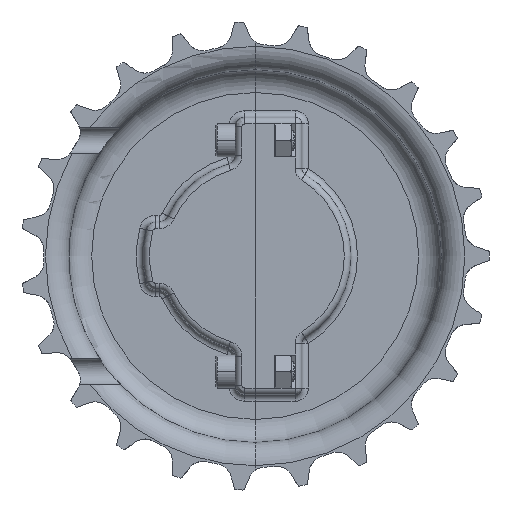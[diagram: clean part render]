
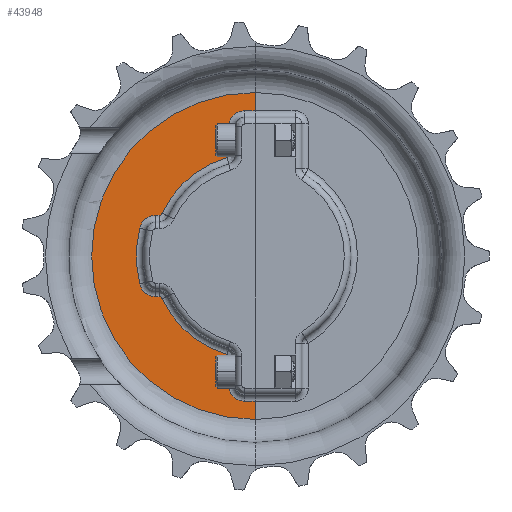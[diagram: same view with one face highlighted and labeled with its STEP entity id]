
A CAD part, left-side view. The second image highlights one B-rep face of the part: STEP entity #43948.
In plain terms, the highlighted planar face has unit normal (-1, 0, 0).
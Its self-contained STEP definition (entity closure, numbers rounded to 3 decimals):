
#15897=DIRECTION('',(0.,0.,-1.));
#15898=VECTOR('',#15897,3.2);
#15899=CARTESIAN_POINT('',(-4.15,44.,3.2));
#15900=LINE('',#15899,#15898);
#15904=DIRECTION('',(0.,1.,0.));
#15905=VECTOR('',#15904,5.535);
#15906=CARTESIAN_POINT('',(-4.15,44.,0.));
#15907=LINE('',#15906,#15905);
#15911=DIRECTION('',(0.,1.,0.));
#15912=VECTOR('',#15911,5.535);
#15913=CARTESIAN_POINT('',(-4.15,-49.535,0.));
#15914=LINE('',#15913,#15912);
#15918=DIRECTION('',(0.,0.,1.));
#15919=VECTOR('',#15918,3.2);
#15920=CARTESIAN_POINT('',(-4.15,-44.,0.));
#15921=LINE('',#15920,#15919);
#15925=CARTESIAN_POINT('',(-4.15,-39.2,3.2));
#15926=DIRECTION('',(-1.,0.,0.));
#15927=DIRECTION('',(0.,-1.,0.));
#15928=AXIS2_PLACEMENT_3D('',#15925,#15926,#15927);
#15933=DIRECTION('',(0.,1.,0.));
#15934=VECTOR('',#15933,8.642);
#15935=CARTESIAN_POINT('',(-4.15,-39.2,8.));
#15936=LINE('',#15935,#15934);
#15940=CARTESIAN_POINT('',(-4.15,-30.558,8.8));
#15941=DIRECTION('',(1.,0.,0.));
#15942=DIRECTION('',(0.,0.,-1.));
#15943=AXIS2_PLACEMENT_3D('',#15940,#15941,#15942);
#15948=CARTESIAN_POINT('',(-4.15,0.,0.));
#15949=DIRECTION('',(-1.,0.,0.));
#15950=DIRECTION('',(0.,-0.961,0.277));
#15951=AXIS2_PLACEMENT_3D('',#15948,#15949,#15950);
#15956=CARTESIAN_POINT('',(-4.15,-13.3,29.105));
#15957=DIRECTION('',(1.,0.,0.));
#15958=DIRECTION('',(0.,0.416,-0.91));
#15959=AXIS2_PLACEMENT_3D('',#15956,#15957,#15958);
#15964=DIRECTION('',(0.,0.,1.));
#15965=VECTOR('',#15964,1.023);
#15966=CARTESIAN_POINT('',(-4.15,-12.3,29.105));
#15967=LINE('',#15966,#15965);
#15971=CARTESIAN_POINT('',(-4.15,-7.3,30.128));
#15972=DIRECTION('',(-1.,0.,0.));
#15973=DIRECTION('',(0.,-1.,0.));
#15974=AXIS2_PLACEMENT_3D('',#15971,#15972,#15973);
#15979=CARTESIAN_POINT('',(-4.15,0.,0.));
#15980=DIRECTION('',(-1.,0.,0.));
#15981=DIRECTION('',(0.,-0.235,0.972));
#15982=AXIS2_PLACEMENT_3D('',#15979,#15980,#15981);
#15987=CARTESIAN_POINT('',(-4.15,7.3,30.128));
#15988=DIRECTION('',(-1.,0.,0.));
#15989=DIRECTION('',(0.,0.235,0.972));
#15990=AXIS2_PLACEMENT_3D('',#15987,#15988,#15989);
#15995=DIRECTION('',(0.,0.,-1.));
#15996=VECTOR('',#15995,1.023);
#15997=CARTESIAN_POINT('',(-4.15,12.3,30.128));
#15998=LINE('',#15997,#15996);
#16002=CARTESIAN_POINT('',(-4.15,13.3,29.105));
#16003=DIRECTION('',(1.,0.,0.));
#16004=DIRECTION('',(0.,-1.,0.));
#16005=AXIS2_PLACEMENT_3D('',#16002,#16003,#16004);
#16010=CARTESIAN_POINT('',(-4.15,0.,0.));
#16011=DIRECTION('',(-1.,0.,0.));
#16012=DIRECTION('',(0.,0.416,0.91));
#16013=AXIS2_PLACEMENT_3D('',#16010,#16011,#16012);
#16018=CARTESIAN_POINT('',(-4.15,30.558,8.8));
#16019=DIRECTION('',(1.,0.,0.));
#16020=DIRECTION('',(0.,-0.961,-0.277));
#16021=AXIS2_PLACEMENT_3D('',#16018,#16019,#16020);
#16026=DIRECTION('',(0.,1.,0.));
#16027=VECTOR('',#16026,8.642);
#16028=CARTESIAN_POINT('',(-4.15,30.558,8.));
#16029=LINE('',#16028,#16027);
#16033=CARTESIAN_POINT('',(-4.15,39.2,3.2));
#16034=DIRECTION('',(-1.,0.,0.));
#16035=DIRECTION('',(0.,0.,1.));
#16036=AXIS2_PLACEMENT_3D('',#16033,#16034,#16035);
#16115=CARTESIAN_POINT('',(-4.15,0.,0.));
#16116=DIRECTION('',(1.,0.,0.));
#16117=DIRECTION('',(0.,1.,0.));
#16118=AXIS2_PLACEMENT_3D('',#16115,#16116,#16117);
#42471=CARTESIAN_POINT('',(-4.15,49.535,0.));
#42472=CARTESIAN_POINT('',(-4.15,-49.535,0.));
#42473=VERTEX_POINT('',#42471);
#42474=VERTEX_POINT('',#42472);
#42491=CARTESIAN_POINT('',(-4.15,44.,3.2));
#42492=CARTESIAN_POINT('',(-4.15,44.,0.));
#42493=VERTEX_POINT('',#42491);
#42494=VERTEX_POINT('',#42492);
#42499=CARTESIAN_POINT('',(-4.15,39.2,8.));
#42500=VERTEX_POINT('',#42499);
#42503=CARTESIAN_POINT('',(-4.15,30.558,8.));
#42504=VERTEX_POINT('',#42503);
#42507=CARTESIAN_POINT('',(-4.15,29.789,8.579));
#42508=VERTEX_POINT('',#42507);
#42511=CARTESIAN_POINT('',(-4.15,12.884,28.196));
#42512=VERTEX_POINT('',#42511);
#42515=CARTESIAN_POINT('',(-4.15,12.3,29.105));
#42516=VERTEX_POINT('',#42515);
#42519=CARTESIAN_POINT('',(-4.15,12.3,30.128));
#42520=VERTEX_POINT('',#42519);
#42523=CARTESIAN_POINT('',(-4.15,8.477,34.988));
#42524=VERTEX_POINT('',#42523);
#42527=CARTESIAN_POINT('',(-4.15,-8.477,34.988));
#42528=VERTEX_POINT('',#42527);
#42531=CARTESIAN_POINT('',(-4.15,-12.3,30.128));
#42532=VERTEX_POINT('',#42531);
#42535=CARTESIAN_POINT('',(-4.15,-12.3,29.105));
#42536=VERTEX_POINT('',#42535);
#42539=CARTESIAN_POINT('',(-4.15,-12.884,28.196));
#42540=VERTEX_POINT('',#42539);
#42543=CARTESIAN_POINT('',(-4.15,-29.789,8.579));
#42544=VERTEX_POINT('',#42543);
#42547=CARTESIAN_POINT('',(-4.15,-30.558,8.));
#42548=VERTEX_POINT('',#42547);
#42551=CARTESIAN_POINT('',(-4.15,-39.2,8.));
#42552=VERTEX_POINT('',#42551);
#42555=CARTESIAN_POINT('',(-4.15,-44.,3.2));
#42556=VERTEX_POINT('',#42555);
#42561=CARTESIAN_POINT('',(-4.15,-44.,0.));
#42562=VERTEX_POINT('',#42561);
#43904=CARTESIAN_POINT('',(-4.15,0.,0.));
#43905=DIRECTION('',(1.,0.,0.));
#43906=DIRECTION('',(0.,1.,0.));
#43907=AXIS2_PLACEMENT_3D('',#43904,#43905,#43906);
#43908=PLANE('',#43907);
#43909=ORIENTED_EDGE('',*,*,#43895,.T.);
#43910=ORIENTED_EDGE('',*,*,#43813,.T.);
#43912=ORIENTED_EDGE('',*,*,#43911,.T.);
#43913=ORIENTED_EDGE('',*,*,#43745,.T.);
#43915=ORIENTED_EDGE('',*,*,#43914,.T.);
#43917=ORIENTED_EDGE('',*,*,#43916,.T.);
#43919=ORIENTED_EDGE('',*,*,#43918,.T.);
#43921=ORIENTED_EDGE('',*,*,#43920,.T.);
#43923=ORIENTED_EDGE('',*,*,#43922,.T.);
#43925=ORIENTED_EDGE('',*,*,#43924,.T.);
#43927=ORIENTED_EDGE('',*,*,#43926,.T.);
#43929=ORIENTED_EDGE('',*,*,#43928,.T.);
#43931=ORIENTED_EDGE('',*,*,#43930,.T.);
#43933=ORIENTED_EDGE('',*,*,#43932,.T.);
#43935=ORIENTED_EDGE('',*,*,#43934,.T.);
#43937=ORIENTED_EDGE('',*,*,#43936,.T.);
#43939=ORIENTED_EDGE('',*,*,#43938,.T.);
#43941=ORIENTED_EDGE('',*,*,#43940,.T.);
#43943=ORIENTED_EDGE('',*,*,#43942,.T.);
#43945=ORIENTED_EDGE('',*,*,#43944,.T.);
#43946=EDGE_LOOP('',(#43909,#43910,#43912,#43913,#43915,#43917,#43919,#43921,
#43923,#43925,#43927,#43929,#43931,#43933,#43935,#43937,#43939,#43941,#43943,
#43945));
#43947=FACE_OUTER_BOUND('',#43946,.F.);
#15929=CIRCLE('',#15928,4.8);
#15944=CIRCLE('',#15943,0.8);
#15952=CIRCLE('',#15951,31.);
#15960=CIRCLE('',#15959,1.);
#15975=CIRCLE('',#15974,5.);
#15983=CIRCLE('',#15982,36.);
#15991=CIRCLE('',#15990,5.);
#16006=CIRCLE('',#16005,1.);
#16014=CIRCLE('',#16013,31.);
#16022=CIRCLE('',#16021,0.8);
#16037=CIRCLE('',#16036,4.8);
#16119=CIRCLE('',#16118,49.535);
#43745=EDGE_CURVE('',#42474,#42562,#15914,.T.);
#43813=EDGE_CURVE('',#42494,#42473,#15907,.T.);
#43895=EDGE_CURVE('',#42493,#42494,#15900,.T.);
#43911=EDGE_CURVE('',#42473,#42474,#16119,.T.);
#43914=EDGE_CURVE('',#42562,#42556,#15921,.T.);
#43916=EDGE_CURVE('',#42556,#42552,#15929,.T.);
#43918=EDGE_CURVE('',#42552,#42548,#15936,.T.);
#43920=EDGE_CURVE('',#42548,#42544,#15944,.T.);
#43922=EDGE_CURVE('',#42544,#42540,#15952,.T.);
#43924=EDGE_CURVE('',#42540,#42536,#15960,.T.);
#43926=EDGE_CURVE('',#42536,#42532,#15967,.T.);
#43928=EDGE_CURVE('',#42532,#42528,#15975,.T.);
#43930=EDGE_CURVE('',#42528,#42524,#15983,.T.);
#43932=EDGE_CURVE('',#42524,#42520,#15991,.T.);
#43934=EDGE_CURVE('',#42520,#42516,#15998,.T.);
#43936=EDGE_CURVE('',#42516,#42512,#16006,.T.);
#43938=EDGE_CURVE('',#42512,#42508,#16014,.T.);
#43940=EDGE_CURVE('',#42508,#42504,#16022,.T.);
#43942=EDGE_CURVE('',#42504,#42500,#16029,.T.);
#43944=EDGE_CURVE('',#42500,#42493,#16037,.T.);
#43948=ADVANCED_FACE('',(#43947),#43908,.F.);
